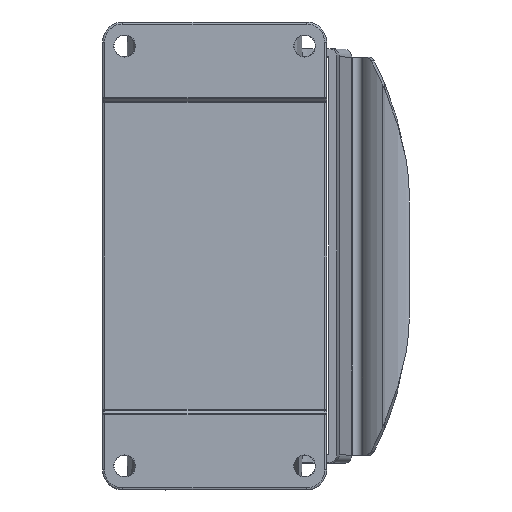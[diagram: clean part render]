
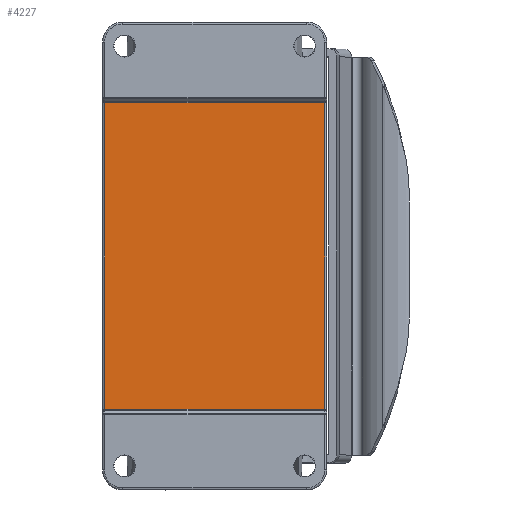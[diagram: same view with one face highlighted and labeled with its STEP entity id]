
A CAD part, front view. The second image highlights one B-rep face of the part: STEP entity #4227.
In plain terms, the highlighted planar face has unit normal (0, -1, 0).
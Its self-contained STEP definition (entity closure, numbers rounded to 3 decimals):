
#24 = CARTESIAN_POINT ( 'NONE',  ( -33.6, 1., -38.293 ) ) ;
#914 = VERTEX_POINT ( 'NONE', #20517 ) ;
#1370 = VERTEX_POINT ( 'NONE', #11639 ) ;
#2022 = DIRECTION ( 'NONE',  ( 0., 0., 1. ) ) ;
#3264 = LINE ( 'NONE', #9685, #14813 ) ;
#4227 = ADVANCED_FACE ( 'NONE', ( #16616 ), #11544, .F. ) ;
#4976 = AXIS2_PLACEMENT_3D ( 'NONE', #18125, #13099, #2022 ) ;
#5978 = CARTESIAN_POINT ( 'NONE',  ( 27.5, 1., 38.293 ) ) ;
#6038 = LINE ( 'NONE', #24, #12316 ) ;
#6188 = EDGE_CURVE ( 'NONE', #914, #1370, #6038, .T. ) ;
#6264 = DIRECTION ( 'NONE',  ( -1., 0., 0. ) ) ;
#6543 = EDGE_CURVE ( 'NONE', #1370, #9125, #3264, .T. ) ;
#7594 = CARTESIAN_POINT ( 'NONE',  ( -27.5, 1., 38.293 ) ) ;
#8925 = LINE ( 'NONE', #9515, #17195 ) ;
#9125 = VERTEX_POINT ( 'NONE', #7594 ) ;
#9391 = ORIENTED_EDGE ( 'NONE', *, *, #16021, .F. ) ;
#9449 = LINE ( 'NONE', #11774, #14957 ) ;
#9515 = CARTESIAN_POINT ( 'NONE',  ( 27.5, 1., -38.5 ) ) ;
#9685 = CARTESIAN_POINT ( 'NONE',  ( -27.5, 1., 38.516 ) ) ;
#11326 = EDGE_CURVE ( 'NONE', #15464, #914, #8925, .T. ) ;
#11544 = PLANE ( 'NONE',  #4976 ) ;
#11639 = CARTESIAN_POINT ( 'NONE',  ( -27.5, 1., -38.293 ) ) ;
#11774 = CARTESIAN_POINT ( 'NONE',  ( -33.6, 1., 38.293 ) ) ;
#12316 = VECTOR ( 'NONE', #6264, 1000. ) ;
#12826 = DIRECTION ( 'NONE',  ( 0., 0., -1. ) ) ;
#13099 = DIRECTION ( 'NONE',  ( 0., 1., 0. ) ) ;
#14813 = VECTOR ( 'NONE', #19336, 1000. ) ;
#14957 = VECTOR ( 'NONE', #19804, 1000. ) ;
#15464 = VERTEX_POINT ( 'NONE', #5978 ) ;
#15926 = ORIENTED_EDGE ( 'NONE', *, *, #6543, .F. ) ;
#16021 = EDGE_CURVE ( 'NONE', #9125, #15464, #9449, .T. ) ;
#16616 = FACE_OUTER_BOUND ( 'NONE', #20690, .T. ) ;
#17195 = VECTOR ( 'NONE', #12826, 1000. ) ;
#18125 = CARTESIAN_POINT ( 'NONE',  ( -33.6, 1., -38.5 ) ) ;
#18204 = ORIENTED_EDGE ( 'NONE', *, *, #6188, .F. ) ;
#19336 = DIRECTION ( 'NONE',  ( 0., 0., 1. ) ) ;
#19804 = DIRECTION ( 'NONE',  ( 1., 0., 0. ) ) ;
#20472 = ORIENTED_EDGE ( 'NONE', *, *, #11326, .F. ) ;
#20517 = CARTESIAN_POINT ( 'NONE',  ( 27.5, 1., -38.293 ) ) ;
#20690 = EDGE_LOOP ( 'NONE', ( #20472, #9391, #15926, #18204 ) ) ;
